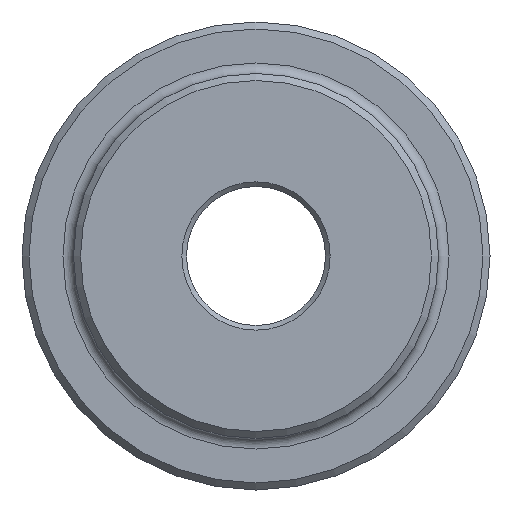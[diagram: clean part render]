
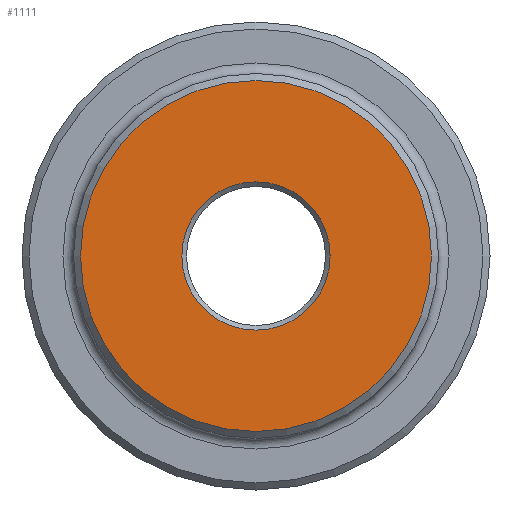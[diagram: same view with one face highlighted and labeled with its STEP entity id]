
A CAD part, left-side view. The second image highlights one B-rep face of the part: STEP entity #1111.
In plain terms, the highlighted planar face has unit normal (-1, 0, 0).
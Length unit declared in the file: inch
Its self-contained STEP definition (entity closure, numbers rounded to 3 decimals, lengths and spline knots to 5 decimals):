
#74 = CARTESIAN_POINT ( 'NONE',  ( 0., 0., -1.5 ) ) ;
#144 = DIRECTION ( 'NONE',  ( 1., 0., 0. ) ) ;
#161 = FACE_BOUND ( 'NONE', #1707, .T. ) ;
#200 = ORIENTED_EDGE ( 'NONE', *, *, #1296, .T. ) ;
#226 = DIRECTION ( 'NONE',  ( 0., 0., -1. ) ) ;
#297 = PLANE ( 'NONE',  #359 ) ;
#359 = AXIS2_PLACEMENT_3D ( 'NONE', #1326, #533, #1827 ) ;
#420 = VERTEX_POINT ( 'NONE', #1049 ) ;
#490 = DIRECTION ( 'NONE',  ( 0., 0., -1. ) ) ;
#533 = DIRECTION ( 'NONE',  ( 1., 0., 0. ) ) ;
#756 = CIRCLE ( 'NONE', #927, 0.634 ) ;
#859 = VERTEX_POINT ( 'NONE', #74 ) ;
#867 = CARTESIAN_POINT ( 'NONE',  ( 0., 0., 0. ) ) ;
#927 = AXIS2_PLACEMENT_3D ( 'NONE', #867, #144, #226 ) ;
#1049 = CARTESIAN_POINT ( 'NONE',  ( 0., 0., -0.634 ) ) ;
#1067 = DIRECTION ( 'NONE',  ( -1., 0., 0. ) ) ;
#1082 = CIRCLE ( 'NONE', #1826, 1.5 ) ;
#1111 = ADVANCED_FACE ( 'NONE', ( #161, #1189 ), #297, .F. ) ;
#1189 = FACE_OUTER_BOUND ( 'NONE', #1740, .T. ) ;
#1219 = ORIENTED_EDGE ( 'NONE', *, *, #1447, .T. ) ;
#1296 = EDGE_CURVE ( 'NONE', #420, #420, #756, .T. ) ;
#1326 = CARTESIAN_POINT ( 'NONE',  ( 0., 0., 0. ) ) ;
#1447 = EDGE_CURVE ( 'NONE', #859, #859, #1082, .T. ) ;
#1477 = CARTESIAN_POINT ( 'NONE',  ( 0., 0., 0. ) ) ;
#1707 = EDGE_LOOP ( 'NONE', ( #200 ) ) ;
#1740 = EDGE_LOOP ( 'NONE', ( #1219 ) ) ;
#1826 = AXIS2_PLACEMENT_3D ( 'NONE', #1477, #1067, #490 ) ;
#1827 = DIRECTION ( 'NONE',  ( 0., 0., -1. ) ) ;
